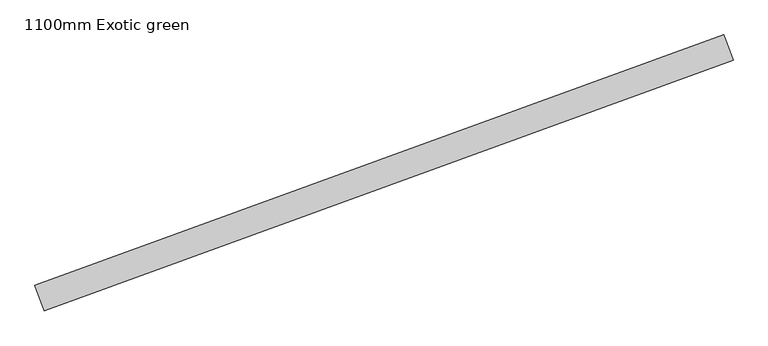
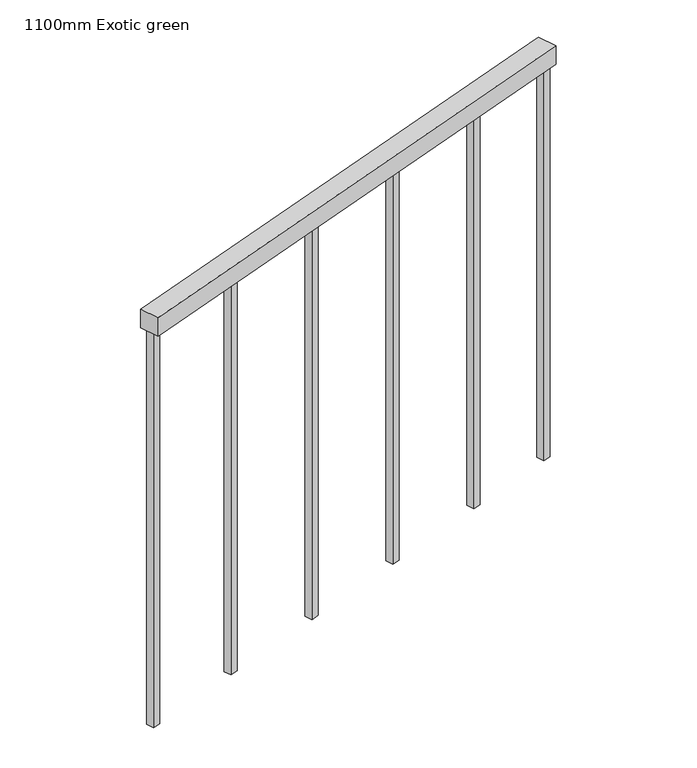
"""IFC4 building model written with IfcOpenShell, lengths in millimetres: railing geometry, 1100mm Exotic green."""

from ifc_helpers import new_model, si_unit, frame, origin, place, context, project, spatial, polyline, outline, extrude, source, transform, mapped, element, save


def railing_1100mm_exotic_green_02358ce2(model_context):
    return source(origin(), model_context, "Body", "SweptSolid", [
        extrude(outline(polyline([(35736.5133804, 12327.9007581), (35719.4123766, 12374.8853904), (36988.328195, 12836.7328748), (37005.4291988, 12789.7482425), (35736.5133804, 12327.9007581)])), frame((0.0, 0.0, 5310.0), z_axis=(0.0, 0.0, 1.0), x_axis=(1.0, 0.0, 0.0)), (0.0, 0.0, 1.0), 50.0),
        extrude(outline(polyline([(36755.6480627, 12714.7980304), (36748.8076612, 12733.5918833), (36767.6015141, 12740.4322848), (36774.4419156, 12721.6384319), (36755.6480627, 12714.7980304)])), frame((0.0, 0.0, 4260.0), z_axis=(0.0, 0.0, 1.0), x_axis=(1.0, 0.0, 0.0)), (0.0, 0.0, 1.0), 1050.0),
        extrude(outline(polyline([(36497.2325853, 12620.7425096), (36490.3921837, 12639.5363625), (36509.1860366, 12646.376764), (36516.0264382, 12627.5829111), (36497.2325853, 12620.7425096)])), frame((0.0, 0.0, 4260.0), z_axis=(0.0, 0.0, 1.0), x_axis=(1.0, 0.0, 0.0)), (0.0, 0.0, 1.0), 1050.0),
        extrude(outline(polyline([(36238.8171078, 12526.6869887), (36231.9767063, 12545.4808416), (36250.7705592, 12552.3212431), (36257.6109607, 12533.5273902), (36238.8171078, 12526.6869887)])), frame((0.0, 0.0, 4260.0), z_axis=(0.0, 0.0, 1.0), x_axis=(1.0, 0.0, 0.0)), (0.0, 0.0, 1.0), 1050.0),
        extrude(outline(polyline([(35980.4016303, 12432.6314679), (35973.5612288, 12451.4253208), (35992.3550817, 12458.2657223), (35999.1954832, 12439.4718694), (35980.4016303, 12432.6314679)])), frame((0.0, 0.0, 4260.0), z_axis=(0.0, 0.0, 1.0), x_axis=(1.0, 0.0, 0.0)), (0.0, 0.0, 1.0), 1050.0),
        extrude(outline(polyline([(36979.1558131, 12796.1481805), (36972.3154116, 12814.9420334), (36991.1092645, 12821.7824349), (36997.949666, 12802.988582), (36979.1558131, 12796.1481805)])), frame((0.0, 0.0, 4260.0), z_axis=(0.0, 0.0, 1.0), x_axis=(1.0, 0.0, 0.0)), (0.0, 0.0, 1.0), 1050.0),
        extrude(outline(polyline([(35733.7323109, 12342.851198), (35726.8919094, 12361.6450509), (35745.6857623, 12368.4854524), (35752.5261638, 12349.6915995), (35733.7323109, 12342.851198)])), frame((0.0, 0.0, 4260.0), z_axis=(0.0, 0.0, 1.0), x_axis=(1.0, 0.0, 0.0)), (0.0, 0.0, 1.0), 1050.0),
    ])


if __name__ == "__main__":
    model = new_model("IFC4")
    model_context = context("Model", 3, world=origin())
    ifc_project = project(units=[si_unit("LENGTHUNIT", "METRE", prefix="MILLI")], contexts=[model_context])
    site = spatial("IfcSite", under=ifc_project)
    building = spatial("IfcBuilding", under=site)
    placement = place(None, origin())
    railing_1100mm_exotic_green_shape = railing_1100mm_exotic_green_02358ce2(model_context)
    element("IfcRailing", 1, ObjectType="1100mm Exotic green", at=placement, inside=building, context=model_context, shape_type="MappedRepresentation", body=[
        mapped(railing_1100mm_exotic_green_shape, transform((0.0, 0.0, 0.0), x_axis=(1.0, 0.0, 0.0), y_axis=(0.0, 1.0, 0.0), z_axis=(0.0, 0.0, 1.0))),
    ])
    save(model, "model.ifc")
